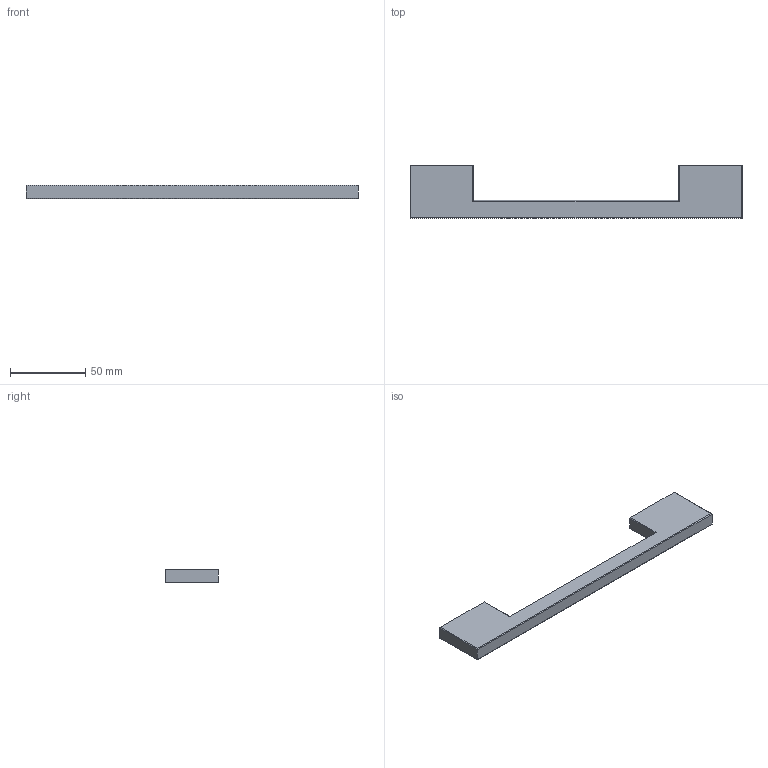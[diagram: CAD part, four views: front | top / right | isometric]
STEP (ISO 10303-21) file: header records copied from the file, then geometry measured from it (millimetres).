
FILE_DESCRIPTION( ( '' ), '1' );
FILE_NAME( 'D:/1.AUTOCAD EXPORT/Group 10/sheet_10_1/DONE/Sachin_1/9995585.stp', '2013-10-29T10:02:17', ( '' ), ( '' ), ' ', ' ', ' ' );
FILE_SCHEMA( ( 'CONFIG_CONTROL_DESIGN' ) );
Length unit declared in the file: millimetre
Products named in the file (1): 1
Bounding box: 220 x 35 x 9 mm (x, y, z)
Volume: 40397.4 mm3; surface area: 14027.6 mm2
Topology: 1 solids, 1 shells, 26 faces, 62 edges, 40 vertices
Faces by surface type: cylinder 15, plane 11
Entity records: 828 total; most frequent: CARTESIAN_POINT 165, DIRECTION 134, ORIENTED_EDGE 124, EDGE_CURVE 62, AXIS2_PLACEMENT_3D 49, VERTEX_POINT 40, LINE 36, VECTOR 36
